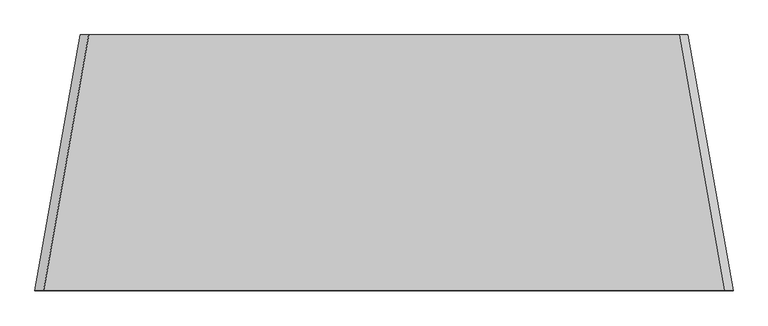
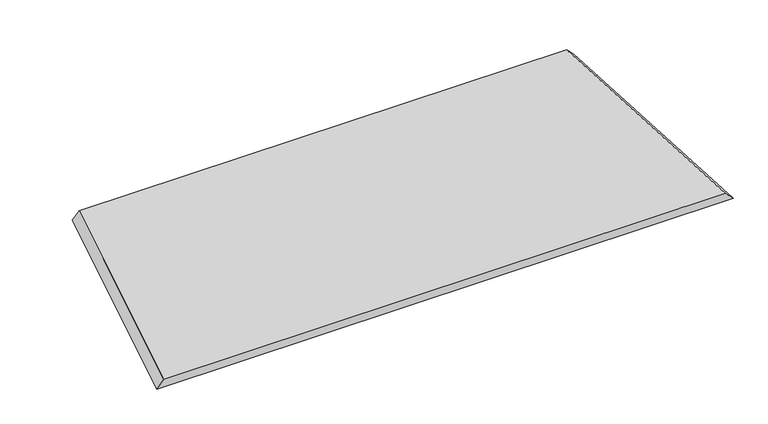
"""IFC4 building model written with IfcOpenShell, lengths in millimetres: proxy geometry, GRADIENT^TABLE 5_PRISM BASE-BACK TOP."""

import ifcopenshell
import ifcopenshell.guid

model = None  # the IFC model being written
_history = None  # IfcOwnerHistory: only IFC2X3 demands one
_inside = {}  # id of a spatial element -> (the spatial element, [elements in it])
_under = {}  # id of a project, library or spatial element -> (it, [spatial elements below it])
_declared = {}  # id of a project -> (the project, [libraries it declares])
_typed = {}  # id of a type object -> (the type object, [elements of that type])
_made_of = {}  # id of a material, layer set ... -> (it, [elements and type objects made of it])


def new_model(schema):
    """Start an empty IFC model of exactly this schema.

    Asked for "IFC4X3", IfcOpenShell would pick the latest addendum, in which some entities
    have other attributes; the version numbers below select the first issue.
    IFC2X3 requires an IfcOwnerHistory on every rooted entity: one is made here for all.
    """
    global model, _history
    if schema == "IFC4X3":
        model = ifcopenshell.file(schema_version=(4, 3, 0, 0))
    else:
        model = ifcopenshell.file(schema=schema)
    _inside.clear()
    _under.clear()
    _declared.clear()
    _typed.clear()
    _made_of.clear()
    _history = None
    if model.schema == "IFC2X3":
        org = make("IfcOrganization", Name="unknown")
        user = make(
            "IfcPersonAndOrganization",
            ThePerson=make("IfcPerson", FamilyName="unknown"),
            TheOrganization=org,
        )
        app = make(
            "IfcApplication",
            ApplicationDeveloper=org,
            Version="unknown",
            ApplicationFullName="unknown",
            ApplicationIdentifier="unknown",
        )
        _history = make(
            "IfcOwnerHistory",
            OwningUser=user,
            OwningApplication=app,
            ChangeAction="ADDED",
            CreationDate=0,
        )
    return model


def make(cls, **values):
    """One entity of the class cls with the attributes given. An attribute that is None is left unset."""
    return model.create_entity(
        cls, **{name: value for name, value in values.items() if value is not None}
    )


def rooted(cls, **values):
    """An entity with a GlobalId (a new one), such as an element, a storey or a relation."""
    return make(cls, GlobalId=ifcopenshell.guid.new(), OwnerHistory=_history, **values)


def si_unit(unit_type, name, prefix=None):
    """IfcSIUnit, for example si_unit("LENGTHUNIT", "METRE", prefix="MILLI")."""
    return make("IfcSIUnit", UnitType=unit_type, Prefix=prefix, Name=name)


def assignment(units):
    """IfcUnitAssignment: the units of a project."""
    return None if units is None else make("IfcUnitAssignment", Units=units)


def point(xyz):
    """IfcCartesianPoint."""
    return None if xyz is None else make("IfcCartesianPoint", Coordinates=xyz)


def direction(xyz):
    """IfcDirection."""
    return None if xyz is None else make("IfcDirection", DirectionRatios=xyz)


def frame(location, z_axis=None, x_axis=None):
    """IfcAxis2Placement3D, a coordinate frame: its origin and axes. An axis left out is left unset."""
    return make(
        "IfcAxis2Placement3D",
        Location=point(location),
        Axis=direction(z_axis),
        RefDirection=direction(x_axis),
    )


def origin():
    """The frame at (0, 0, 0) with its axes left unset."""
    return frame((0.0, 0.0, 0.0))


def place(relative_to, where):
    """IfcLocalPlacement: puts the frame where relative to a parent placement (None: the world)."""
    return make(
        "IfcLocalPlacement", PlacementRelTo=relative_to, RelativePlacement=where
    )


def context(
    kind, dimensions, precision=None, world=None, true_north=None, identifier=None
):
    """IfcGeometricRepresentationContext, for example the 3D "Model" context."""
    return make(
        "IfcGeometricRepresentationContext",
        ContextIdentifier=identifier,
        ContextType=kind,
        CoordinateSpaceDimension=dimensions,
        Precision=precision,
        WorldCoordinateSystem=world,
        TrueNorth=true_north,
    )


def project(units=None, contexts=None):
    """IfcProject with its units and contexts."""
    return rooted(
        "IfcProject",
        Name="project",
        RepresentationContexts=contexts,
        UnitsInContext=assignment(units),
    )


def spatial(cls, under=None, at=None, **own):
    """A site, building, storey or space (cls), placed at a placement, below another one or the project."""
    s = rooted(cls, ObjectPlacement=at, **own)
    if under is not None:
        _under.setdefault(under.id(), (under, []))[1].append(s)
    return s


def faces_of(points, faces, orient=None, outer=None):
    """IfcFace entities. A face is a list of loops; a loop is a list of indices into points, from 0.

    orient and outer hold one flag for each loop. By default every Orientation is true, the
    first loop of a face is its IfcFaceOuterBound and the others are IfcFaceBound.
    """
    made = []
    for i, loops in enumerate(faces):
        bounds = []
        for j, loop in enumerate(loops):
            is_outer = j == 0 if outer is None else outer[i][j]
            bounds.append(
                make(
                    "IfcFaceOuterBound" if is_outer else "IfcFaceBound",
                    Bound=make("IfcPolyLoop", Polygon=[points[k] for k in loop]),
                    Orientation=True if orient is None else orient[i][j],
                )
            )
        made.append(make("IfcFace", Bounds=bounds))
    return made


def faceted_brep(points, faces, orient=None, outer=None, voids=None):
    """IfcFacetedBrep: a solid bounded by flat faces; with voids (closed shells), ...WithVoids."""
    shared = [point(p) for p in points]
    hull = make("IfcClosedShell", CfsFaces=faces_of(shared, faces, orient, outer))
    if voids is None:
        return make("IfcFacetedBrep", Outer=hull)
    return make(
        "IfcFacetedBrepWithVoids",
        Outer=hull,
        Voids=[
            make(cls, CfsFaces=faces_of(shared, fs, o, b)) for cls, fs, o, b in voids
        ],
    )


def shape(context_of_items, identifier, shape_type, items):
    """IfcShapeRepresentation: the items that make up one representation, for example the "Body"."""
    return make(
        "IfcShapeRepresentation",
        ContextOfItems=context_of_items,
        RepresentationIdentifier=identifier,
        RepresentationType=shape_type,
        Items=items,
    )


def source(mapping_origin, context_of_items, identifier, shape_type, items):
    """IfcRepresentationMap: a shape defined once, which mapped items show again and again."""
    return make(
        "IfcRepresentationMap",
        MappingOrigin=mapping_origin,
        MappedRepresentation=shape(context_of_items, identifier, shape_type, items),
    )


def transform(
    local_origin,
    x_axis=None,
    y_axis=None,
    z_axis=None,
    scale=None,
    scale2=None,
    scale3=None,
    uniform=True,
):
    """IfcCartesianTransformationOperator3D, or its non-uniform kind. x_axis, y_axis, z_axis: its Axis1, 2, 3."""
    if uniform:
        return make(
            "IfcCartesianTransformationOperator3D",
            Axis1=direction(x_axis),
            Axis2=direction(y_axis),
            LocalOrigin=point(local_origin),
            Scale=scale,
            Axis3=direction(z_axis),
        )
    return make(
        "IfcCartesianTransformationOperator3DnonUniform",
        Axis1=direction(x_axis),
        Axis2=direction(y_axis),
        LocalOrigin=point(local_origin),
        Scale=scale,
        Axis3=direction(z_axis),
        Scale2=scale2,
        Scale3=scale3,
    )


def mapped(mapping_source, mapping_target):
    """IfcMappedItem: shows the shape of a source again, moved by a transform."""
    return make(
        "IfcMappedItem", MappingSource=mapping_source, MappingTarget=mapping_target
    )


def made_of(thing, what):
    """Note that an element or type object is made of a material, layer set ...; save() writes the relation."""
    if what is not None:
        _made_of.setdefault(what.id(), (what, []))[1].append(thing)
    return thing


def element(
    cls,
    number,
    at=None,
    inside=None,
    cuts=None,
    type_object=None,
    material=None,
    context=None,
    identifier="Body",
    shape_type=None,
    held_by="IfcProductDefinitionShape",
    body=None,
    shapes=None,
    **own,
):
    """One element of the class cls, such as IfcWall. Its Tag is "e" and its number.

    at: its placement. inside: the storey or other place that contains it. cuts: it is an
    opening in that element (IfcRelVoidsElement). A single representation is given by context,
    identifier, shape_type and body (its items); several are given by shapes. held_by: the class
    of the entity that holds the representations. save() writes the other relations.
    """
    e = rooted(cls, Tag="e%d" % number, ObjectPlacement=at, **own)
    if body is not None:
        shapes = [shape(context, identifier, shape_type, body)]
    if shapes is not None:
        e.Representation = make(held_by, Representations=shapes)
    if inside is not None:
        _inside.setdefault(inside.id(), (inside, []))[1].append(e)
    if cuts is not None:
        rooted(
            "IfcRelVoidsElement", RelatingBuildingElement=cuts, RelatedOpeningElement=e
        )
    if type_object is not None:
        _typed.setdefault(type_object.id(), (type_object, []))[1].append(e)
    return made_of(e, material)


def aggregate(whole, parts):
    """IfcRelAggregates: a whole, such as a stair, and the parts it consists of."""
    return rooted("IfcRelAggregates", RelatingObject=whole, RelatedObjects=parts)


def save(model, path):
    """Write the relations noted so far, then the file.

    IfcRelAggregates (storeys below a building ...), IfcRelContainedInSpatialStructure (elements
    in a storey), IfcRelDefinesByType, IfcRelAssociatesMaterial and IfcRelDeclares: one each for
    every whole, place, type object, material and project.
    """
    for whole, parts in _under.values():
        aggregate(whole, parts)
    for where, things in _inside.values():
        rooted(
            "IfcRelContainedInSpatialStructure",
            RelatedElements=things,
            RelatingStructure=where,
        )
    for kind, things in _typed.values():
        rooted("IfcRelDefinesByType", RelatedObjects=things, RelatingType=kind)
    for what, things in _made_of.values():
        rooted("IfcRelAssociatesMaterial", RelatedObjects=things, RelatingMaterial=what)
    for by, libraries in _declared.values():
        rooted("IfcRelDeclares", RelatingContext=by, RelatedDefinitions=libraries)
    model.write(path)


def generic_models_3a8b6ff9(model_context):
    return source(origin(), model_context, "Body", "Brep", [
        faceted_brep([(457.2, -558.8, -863.6), (476.846963, -557.0811135, -843.953037), (575.0753938, 0.0, -745.7246062), (555.7315168, 0.0, -765.0684832), (1961.553037, -557.0811135, -843.953037), (1863.3246062, 0.0, -745.7246062), (1981.2, -558.8, -863.6), (1882.6684832, 0.0, -765.0684832)], [[[0, 1, 2, 3]], [[2, 1, 4, 5]], [[1, 0, 6, 4]], [[0, 3, 7, 6]], [[4, 6, 7, 5]], [[3, 2, 5, 7]]]),
    ])


if __name__ == "__main__":
    model = new_model("IFC4")
    model_context = context("Model", 3, world=origin())
    ifc_project = project(units=[si_unit("LENGTHUNIT", "METRE", prefix="MILLI")], contexts=[model_context])
    site = spatial("IfcSite", under=ifc_project)
    building = spatial("IfcBuilding", under=site)
    placement = place(None, origin())
    generic_models_shape = generic_models_3a8b6ff9(model_context)
    element("IfcBuildingElementProxy", 1, Name="GRADIENT^TABLE 5_PRISM BASE-BACK TOP", ObjectType="GRADIENT^TABLE 5_PRISM BASE-BACK TOP", at=placement, inside=building, context=model_context, shape_type="MappedRepresentation", body=[
        mapped(generic_models_shape, transform((0.0, 0.0, 0.0), x_axis=(1.0, 0.0, 0.0), y_axis=(0.0, 1.0, 0.0), z_axis=(0.0, 0.0, 1.0))),
    ])
    save(model, "model.ifc")
